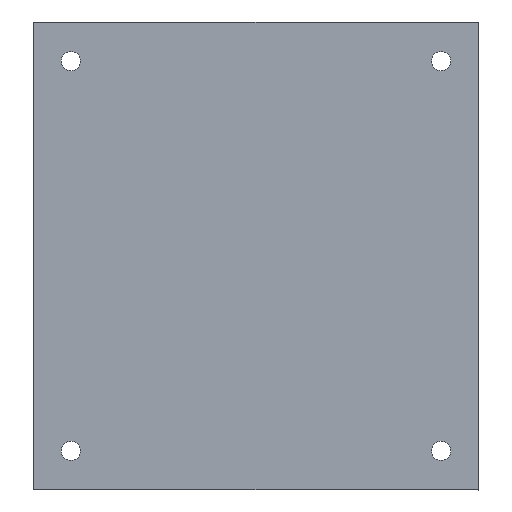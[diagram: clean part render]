
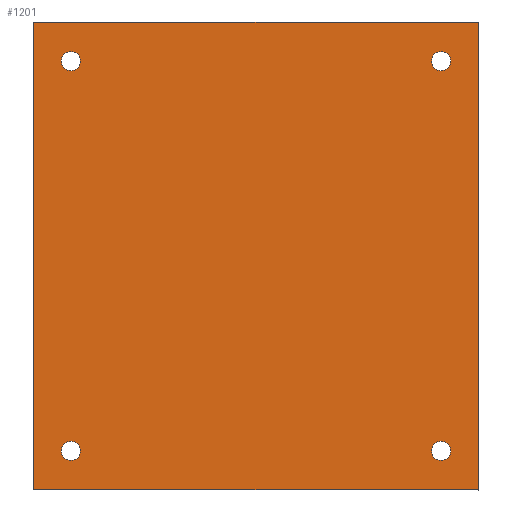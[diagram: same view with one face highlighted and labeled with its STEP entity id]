
A CAD part, front view. The second image highlights one B-rep face of the part: STEP entity #1201.
In plain terms, the highlighted planar face has unit normal (0, -1, 0).
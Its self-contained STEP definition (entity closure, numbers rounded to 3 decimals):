
#28 = VERTEX_POINT ( 'NONE', #1246 ) ;
#49 = DIRECTION ( 'NONE',  ( 0., 1., 0. ) ) ;
#56 = LINE ( 'NONE', #1894, #1989 ) ;
#72 = CARTESIAN_POINT ( 'NONE',  ( -28.95, -1.6, -30.5 ) ) ;
#178 = DIRECTION ( 'NONE',  ( 0., 1., 0. ) ) ;
#233 = EDGE_LOOP ( 'NONE', ( #1006, #1141 ) ) ;
#245 = EDGE_CURVE ( 'NONE', #2619, #2363, #56, .T. ) ;
#281 = DIRECTION ( 'NONE',  ( 0., 1., 0. ) ) ;
#322 = CARTESIAN_POINT ( 'NONE',  ( -24.13, -1.6, 26.65 ) ) ;
#377 = DIRECTION ( 'NONE',  ( 0., 0., -1. ) ) ;
#386 = EDGE_CURVE ( 'NONE', #1091, #2220, #1407, .T. ) ;
#397 = VECTOR ( 'NONE', #2001, 1000. ) ;
#401 = FACE_OUTER_BOUND ( 'NONE', #2721, .T. ) ;
#413 = CARTESIAN_POINT ( 'NONE',  ( 28.95, -1.6, 0. ) ) ;
#481 = EDGE_CURVE ( 'NONE', #2212, #1621, #1718, .T. ) ;
#495 = DIRECTION ( 'NONE',  ( 0., 0., 1. ) ) ;
#533 = DIRECTION ( 'NONE',  ( 0., 0., 1. ) ) ;
#627 = ORIENTED_EDGE ( 'NONE', *, *, #2483, .T. ) ;
#690 = CIRCLE ( 'NONE', #1113, 1.25 ) ;
#720 = CARTESIAN_POINT ( 'NONE',  ( -24.13, -1.6, 24.15 ) ) ;
#746 = ORIENTED_EDGE ( 'NONE', *, *, #2988, .T. ) ;
#766 = AXIS2_PLACEMENT_3D ( 'NONE', #1988, #1268, #2455 ) ;
#779 = CARTESIAN_POINT ( 'NONE',  ( 24.13, -1.6, 24.15 ) ) ;
#783 = CARTESIAN_POINT ( 'NONE',  ( 24.13, -1.6, 26.65 ) ) ;
#809 = AXIS2_PLACEMENT_3D ( 'NONE', #2272, #2294, #2060 ) ;
#822 = CARTESIAN_POINT ( 'NONE',  ( -28.95, -1.6, 0. ) ) ;
#877 = VERTEX_POINT ( 'NONE', #2201 ) ;
#885 = AXIS2_PLACEMENT_3D ( 'NONE', #2838, #2626, #2453 ) ;
#895 = EDGE_CURVE ( 'NONE', #2363, #1778, #2022, .T. ) ;
#914 = EDGE_CURVE ( 'NONE', #1271, #2619, #1131, .T. ) ;
#989 = ORIENTED_EDGE ( 'NONE', *, *, #1902, .T. ) ;
#995 = CARTESIAN_POINT ( 'NONE',  ( -24.13, -1.6, 25.4 ) ) ;
#1006 = ORIENTED_EDGE ( 'NONE', *, *, #2274, .T. ) ;
#1009 = FACE_BOUND ( 'NONE', #1065, .T. ) ;
#1052 = FACE_BOUND ( 'NONE', #2156, .T. ) ;
#1058 = VECTOR ( 'NONE', #1321, 1000. ) ;
#1065 = EDGE_LOOP ( 'NONE', ( #2040, #2494 ) ) ;
#1076 = CARTESIAN_POINT ( 'NONE',  ( 24.13, -1.6, -26.65 ) ) ;
#1091 = VERTEX_POINT ( 'NONE', #720 ) ;
#1104 = CIRCLE ( 'NONE', #1178, 1.25 ) ;
#1106 = ORIENTED_EDGE ( 'NONE', *, *, #1833, .T. ) ;
#1113 = AXIS2_PLACEMENT_3D ( 'NONE', #1313, #178, #2706 ) ;
#1123 = AXIS2_PLACEMENT_3D ( 'NONE', #2462, #2424, #2926 ) ;
#1131 = LINE ( 'NONE', #413, #1058 ) ;
#1141 = ORIENTED_EDGE ( 'NONE', *, *, #386, .T. ) ;
#1178 = AXIS2_PLACEMENT_3D ( 'NONE', #2480, #1734, #1985 ) ;
#1201 = ADVANCED_FACE ( 'NONE', ( #1009, #1052, #3000, #1972, #401 ), #2000, .T. ) ;
#1246 = CARTESIAN_POINT ( 'NONE',  ( 24.13, -1.6, -24.15 ) ) ;
#1268 = DIRECTION ( 'NONE',  ( 0., 1., 0. ) ) ;
#1271 = VERTEX_POINT ( 'NONE', #2722 ) ;
#1313 = CARTESIAN_POINT ( 'NONE',  ( 24.13, -1.6, 25.4 ) ) ;
#1321 = DIRECTION ( 'NONE',  ( 0., 0., 1. ) ) ;
#1344 = CIRCLE ( 'NONE', #2099, 1.25 ) ;
#1371 = CIRCLE ( 'NONE', #2738, 1.25 ) ;
#1379 = CIRCLE ( 'NONE', #809, 1.25 ) ;
#1407 = CIRCLE ( 'NONE', #2856, 1.25 ) ;
#1450 = EDGE_LOOP ( 'NONE', ( #627, #2539 ) ) ;
#1486 = DIRECTION ( 'NONE',  ( 0., 0., 1. ) ) ;
#1496 = CARTESIAN_POINT ( 'NONE',  ( 28.95, -1.6, 30.5 ) ) ;
#1501 = CARTESIAN_POINT ( 'NONE',  ( -24.13, -1.6, -24.15 ) ) ;
#1621 = VERTEX_POINT ( 'NONE', #783 ) ;
#1622 = CARTESIAN_POINT ( 'NONE',  ( -28.95, -1.6, 30.5 ) ) ;
#1640 = VECTOR ( 'NONE', #377, 1000. ) ;
#1655 = CARTESIAN_POINT ( 'NONE',  ( 24.13, -1.6, -25.4 ) ) ;
#1718 = CIRCLE ( 'NONE', #1123, 1.25 ) ;
#1734 = DIRECTION ( 'NONE',  ( 0., 1., 0. ) ) ;
#1778 = VERTEX_POINT ( 'NONE', #72 ) ;
#1833 = EDGE_CURVE ( 'NONE', #1848, #877, #1104, .T. ) ;
#1848 = VERTEX_POINT ( 'NONE', #1501 ) ;
#1891 = CIRCLE ( 'NONE', #766, 1.25 ) ;
#1894 = CARTESIAN_POINT ( 'NONE',  ( 0., -1.6, 30.5 ) ) ;
#1902 = EDGE_CURVE ( 'NONE', #877, #1848, #1379, .T. ) ;
#1972 = FACE_BOUND ( 'NONE', #233, .T. ) ;
#1985 = DIRECTION ( 'NONE',  ( 0., 0., 1. ) ) ;
#1988 = CARTESIAN_POINT ( 'NONE',  ( 24.13, -1.6, -25.4 ) ) ;
#1989 = VECTOR ( 'NONE', #2351, 1000. ) ;
#2000 = PLANE ( 'NONE',  #885 ) ;
#2001 = DIRECTION ( 'NONE',  ( 1., 0., 0. ) ) ;
#2022 = LINE ( 'NONE', #822, #1640 ) ;
#2040 = ORIENTED_EDGE ( 'NONE', *, *, #2948, .T. ) ;
#2060 = DIRECTION ( 'NONE',  ( 0., 0., 1. ) ) ;
#2099 = AXIS2_PLACEMENT_3D ( 'NONE', #2889, #2904, #1486 ) ;
#2145 = EDGE_CURVE ( 'NONE', #2584, #28, #1371, .T. ) ;
#2156 = EDGE_LOOP ( 'NONE', ( #1106, #989 ) ) ;
#2191 = ORIENTED_EDGE ( 'NONE', *, *, #895, .T. ) ;
#2201 = CARTESIAN_POINT ( 'NONE',  ( -24.13, -1.6, -26.65 ) ) ;
#2211 = CARTESIAN_POINT ( 'NONE',  ( 0., -1.6, -30.5 ) ) ;
#2212 = VERTEX_POINT ( 'NONE', #779 ) ;
#2220 = VERTEX_POINT ( 'NONE', #322 ) ;
#2223 = ORIENTED_EDGE ( 'NONE', *, *, #914, .T. ) ;
#2272 = CARTESIAN_POINT ( 'NONE',  ( -24.13, -1.6, -25.4 ) ) ;
#2274 = EDGE_CURVE ( 'NONE', #2220, #1091, #1344, .T. ) ;
#2294 = DIRECTION ( 'NONE',  ( 0., 1., 0. ) ) ;
#2351 = DIRECTION ( 'NONE',  ( -1., 0., 0. ) ) ;
#2363 = VERTEX_POINT ( 'NONE', #1622 ) ;
#2424 = DIRECTION ( 'NONE',  ( 0., 1., 0. ) ) ;
#2453 = DIRECTION ( 'NONE',  ( 0., 0., -1. ) ) ;
#2455 = DIRECTION ( 'NONE',  ( 0., 0., 1. ) ) ;
#2462 = CARTESIAN_POINT ( 'NONE',  ( 24.13, -1.6, 25.4 ) ) ;
#2480 = CARTESIAN_POINT ( 'NONE',  ( -24.13, -1.6, -25.4 ) ) ;
#2483 = EDGE_CURVE ( 'NONE', #1621, #2212, #690, .T. ) ;
#2494 = ORIENTED_EDGE ( 'NONE', *, *, #2145, .T. ) ;
#2539 = ORIENTED_EDGE ( 'NONE', *, *, #481, .T. ) ;
#2584 = VERTEX_POINT ( 'NONE', #1076 ) ;
#2619 = VERTEX_POINT ( 'NONE', #1496 ) ;
#2626 = DIRECTION ( 'NONE',  ( 0., -1., 0. ) ) ;
#2706 = DIRECTION ( 'NONE',  ( 0., 0., 1. ) ) ;
#2721 = EDGE_LOOP ( 'NONE', ( #2191, #746, #2223, #2945 ) ) ;
#2722 = CARTESIAN_POINT ( 'NONE',  ( 28.95, -1.6, -30.5 ) ) ;
#2738 = AXIS2_PLACEMENT_3D ( 'NONE', #1655, #49, #495 ) ;
#2831 = LINE ( 'NONE', #2211, #397 ) ;
#2838 = CARTESIAN_POINT ( 'NONE',  ( -28.95, -1.6, 30.5 ) ) ;
#2856 = AXIS2_PLACEMENT_3D ( 'NONE', #995, #281, #533 ) ;
#2889 = CARTESIAN_POINT ( 'NONE',  ( -24.13, -1.6, 25.4 ) ) ;
#2904 = DIRECTION ( 'NONE',  ( 0., 1., 0. ) ) ;
#2926 = DIRECTION ( 'NONE',  ( 0., 0., 1. ) ) ;
#2945 = ORIENTED_EDGE ( 'NONE', *, *, #245, .T. ) ;
#2948 = EDGE_CURVE ( 'NONE', #28, #2584, #1891, .T. ) ;
#2988 = EDGE_CURVE ( 'NONE', #1778, #1271, #2831, .T. ) ;
#3000 = FACE_BOUND ( 'NONE', #1450, .T. ) ;
